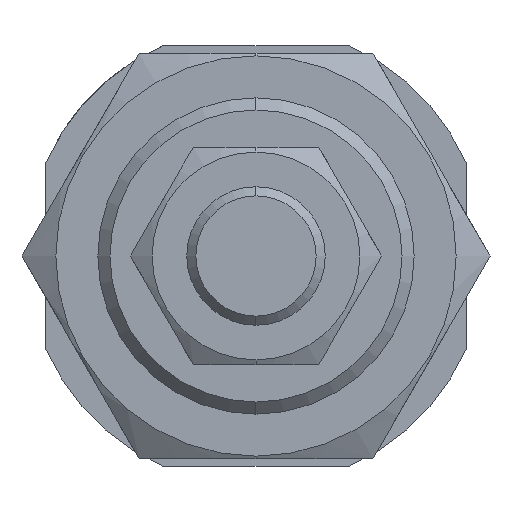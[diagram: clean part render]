
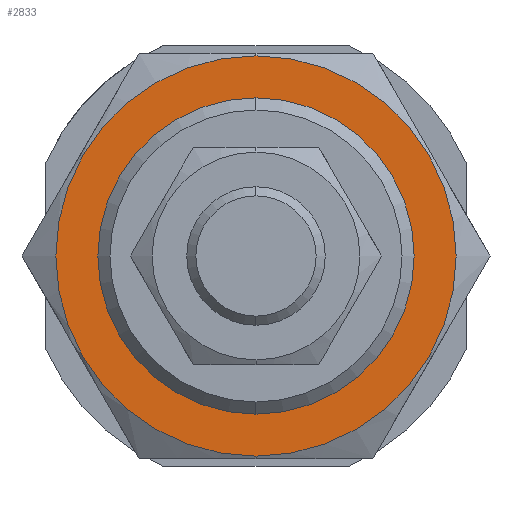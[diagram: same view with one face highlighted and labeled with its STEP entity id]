
A CAD part, left-side view. The second image highlights one B-rep face of the part: STEP entity #2833.
In plain terms, the highlighted planar face has unit normal (-1, 0, 0).
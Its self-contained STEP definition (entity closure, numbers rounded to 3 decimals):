
#5 = VERTEX_POINT ( 'NONE', #2229 ) ;
#43 = CIRCLE ( 'NONE', #785, 16. ) ;
#230 = EDGE_LOOP ( 'NONE', ( #2588, #906 ) ) ;
#513 = EDGE_CURVE ( 'NONE', #1015, #787, #1995, .T. ) ;
#715 = DIRECTION ( 'NONE',  ( 1., 0., 0. ) ) ;
#735 = EDGE_CURVE ( 'NONE', #787, #1015, #43, .T. ) ;
#785 = AXIS2_PLACEMENT_3D ( 'NONE', #4871, #2240, #4843 ) ;
#787 = VERTEX_POINT ( 'NONE', #3598 ) ;
#851 = CARTESIAN_POINT ( 'NONE',  ( -13., 0., 0. ) ) ;
#867 = AXIS2_PLACEMENT_3D ( 'NONE', #1536, #2355, #5472 ) ;
#887 = VERTEX_POINT ( 'NONE', #4086 ) ;
#906 = ORIENTED_EDGE ( 'NONE', *, *, #735, .T. ) ;
#953 = EDGE_CURVE ( 'NONE', #887, #5, #1356, .T. ) ;
#1009 = DIRECTION ( 'NONE',  ( 1., 0., 0. ) ) ;
#1015 = VERTEX_POINT ( 'NONE', #4201 ) ;
#1023 = AXIS2_PLACEMENT_3D ( 'NONE', #2324, #1009, #4037 ) ;
#1336 = AXIS2_PLACEMENT_3D ( 'NONE', #3940, #715, #4257 ) ;
#1356 = CIRCLE ( 'NONE', #867, 20.25 ) ;
#1426 = FACE_OUTER_BOUND ( 'NONE', #5374, .T. ) ;
#1536 = CARTESIAN_POINT ( 'NONE',  ( -13., 0., 0. ) ) ;
#1876 = EDGE_CURVE ( 'NONE', #5, #887, #3835, .T. ) ;
#1995 = CIRCLE ( 'NONE', #2734, 16. ) ;
#2229 = CARTESIAN_POINT ( 'NONE',  ( -13., 0., 20.25 ) ) ;
#2240 = DIRECTION ( 'NONE',  ( 1., 0., 0. ) ) ;
#2324 = CARTESIAN_POINT ( 'NONE',  ( -13., 0., 0. ) ) ;
#2355 = DIRECTION ( 'NONE',  ( 1., 0., 0. ) ) ;
#2588 = ORIENTED_EDGE ( 'NONE', *, *, #513, .T. ) ;
#2734 = AXIS2_PLACEMENT_3D ( 'NONE', #851, #3443, #3993 ) ;
#2833 = ADVANCED_FACE ( 'NONE', ( #1426, #5360 ), #4980, .F. ) ;
#3443 = DIRECTION ( 'NONE',  ( 1., 0., 0. ) ) ;
#3449 = ORIENTED_EDGE ( 'NONE', *, *, #1876, .F. ) ;
#3598 = CARTESIAN_POINT ( 'NONE',  ( -13., 0., -16. ) ) ;
#3835 = CIRCLE ( 'NONE', #1336, 20.25 ) ;
#3940 = CARTESIAN_POINT ( 'NONE',  ( -13., 0., 0. ) ) ;
#3993 = DIRECTION ( 'NONE',  ( 0., 0., -1. ) ) ;
#4037 = DIRECTION ( 'NONE',  ( 0., 1., 0. ) ) ;
#4086 = CARTESIAN_POINT ( 'NONE',  ( -13., 0., -20.25 ) ) ;
#4201 = CARTESIAN_POINT ( 'NONE',  ( -13., 0., 16. ) ) ;
#4257 = DIRECTION ( 'NONE',  ( 0., 0., -1. ) ) ;
#4843 = DIRECTION ( 'NONE',  ( 0., 0., -1. ) ) ;
#4871 = CARTESIAN_POINT ( 'NONE',  ( -13., 0., 0. ) ) ;
#4980 = PLANE ( 'NONE',  #1023 ) ;
#5360 = FACE_BOUND ( 'NONE', #230, .T. ) ;
#5374 = EDGE_LOOP ( 'NONE', ( #5622, #3449 ) ) ;
#5472 = DIRECTION ( 'NONE',  ( 0., 0., -1. ) ) ;
#5622 = ORIENTED_EDGE ( 'NONE', *, *, #953, .F. ) ;
